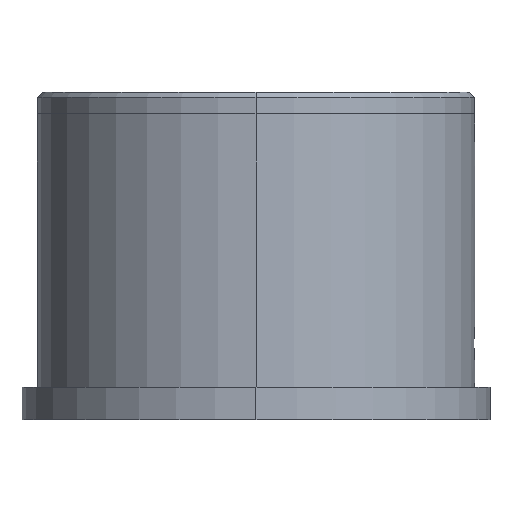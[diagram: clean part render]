
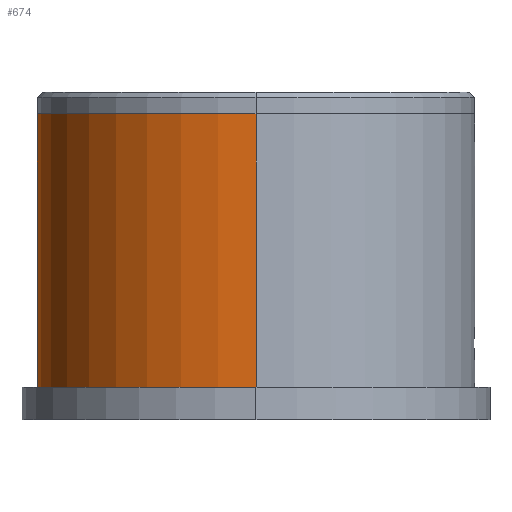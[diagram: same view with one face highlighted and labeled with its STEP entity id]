
A CAD part, left-side view. The second image highlights one B-rep face of the part: STEP entity #674.
In plain terms, the highlighted cylindrical face has radius 31.756 mm (diameter 63.513 mm), a partial arc.
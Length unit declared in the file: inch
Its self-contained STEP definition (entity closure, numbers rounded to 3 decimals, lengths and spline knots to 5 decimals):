
#19 = CIRCLE ( 'NONE', #553, 1.25025 ) ;
#20 = VERTEX_POINT ( 'NONE', #281 ) ;
#25 = DIRECTION ( 'NONE',  ( -1., 0., 0. ) ) ;
#52 = DIRECTION ( 'NONE',  ( -1., 0., 0. ) ) ;
#58 = FACE_OUTER_BOUND ( 'NONE', #691, .T. ) ;
#59 = ORIENTED_EDGE ( 'NONE', *, *, #595, .T. ) ;
#103 = DIRECTION ( 'NONE',  ( 0., 0., -1. ) ) ;
#139 = AXIS2_PLACEMENT_3D ( 'NONE', #617, #215, #25 ) ;
#144 = CARTESIAN_POINT ( 'NONE',  ( 1.25025, 0., 0. ) ) ;
#153 = ORIENTED_EDGE ( 'NONE', *, *, #815, .T. ) ;
#160 = VECTOR ( 'NONE', #103, 39.37008 ) ;
#202 = VECTOR ( 'NONE', #671, 39.37008 ) ;
#208 = DIRECTION ( 'NONE',  ( 0., 0., -1. ) ) ;
#215 = DIRECTION ( 'NONE',  ( 0., 0., -1. ) ) ;
#217 = CARTESIAN_POINT ( 'NONE',  ( -1.25025, 0., 0. ) ) ;
#222 = LINE ( 'NONE', #217, #160 ) ;
#238 = ORIENTED_EDGE ( 'NONE', *, *, #459, .F. ) ;
#280 = CARTESIAN_POINT ( 'NONE',  ( 1.25025, 0., 0.187 ) ) ;
#281 = CARTESIAN_POINT ( 'NONE',  ( -1.25025, 0., 1.75 ) ) ;
#305 = CARTESIAN_POINT ( 'NONE',  ( 0., 0., 1.75 ) ) ;
#449 = VERTEX_POINT ( 'NONE', #556 ) ;
#459 = EDGE_CURVE ( 'NONE', #20, #449, #222, .T. ) ;
#475 = DIRECTION ( 'NONE',  ( -1., 0., 0. ) ) ;
#529 = AXIS2_PLACEMENT_3D ( 'NONE', #305, #574, #52 ) ;
#549 = EDGE_CURVE ( 'NONE', #449, #600, #19, .T. ) ;
#553 = AXIS2_PLACEMENT_3D ( 'NONE', #742, #208, #475 ) ;
#555 = CIRCLE ( 'NONE', #529, 1.25025 ) ;
#556 = CARTESIAN_POINT ( 'NONE',  ( -1.25025, 0., 0.187 ) ) ;
#574 = DIRECTION ( 'NONE',  ( 0., 0., -1. ) ) ;
#595 = EDGE_CURVE ( 'NONE', #688, #600, #744, .T. ) ;
#600 = VERTEX_POINT ( 'NONE', #280 ) ;
#617 = CARTESIAN_POINT ( 'NONE',  ( 0., 0., 0. ) ) ;
#642 = ORIENTED_EDGE ( 'NONE', *, *, #549, .F. ) ;
#671 = DIRECTION ( 'NONE',  ( 0., 0., -1. ) ) ;
#674 = ADVANCED_FACE ( 'NONE', ( #58 ), #733, .T. ) ;
#688 = VERTEX_POINT ( 'NONE', #746 ) ;
#691 = EDGE_LOOP ( 'NONE', ( #153, #59, #642, #238 ) ) ;
#733 = CYLINDRICAL_SURFACE ( 'NONE', #139, 1.25025 ) ;
#742 = CARTESIAN_POINT ( 'NONE',  ( 0., 0., 0.187 ) ) ;
#744 = LINE ( 'NONE', #144, #202 ) ;
#746 = CARTESIAN_POINT ( 'NONE',  ( 1.25025, 0., 1.75 ) ) ;
#815 = EDGE_CURVE ( 'NONE', #20, #688, #555, .T. ) ;
